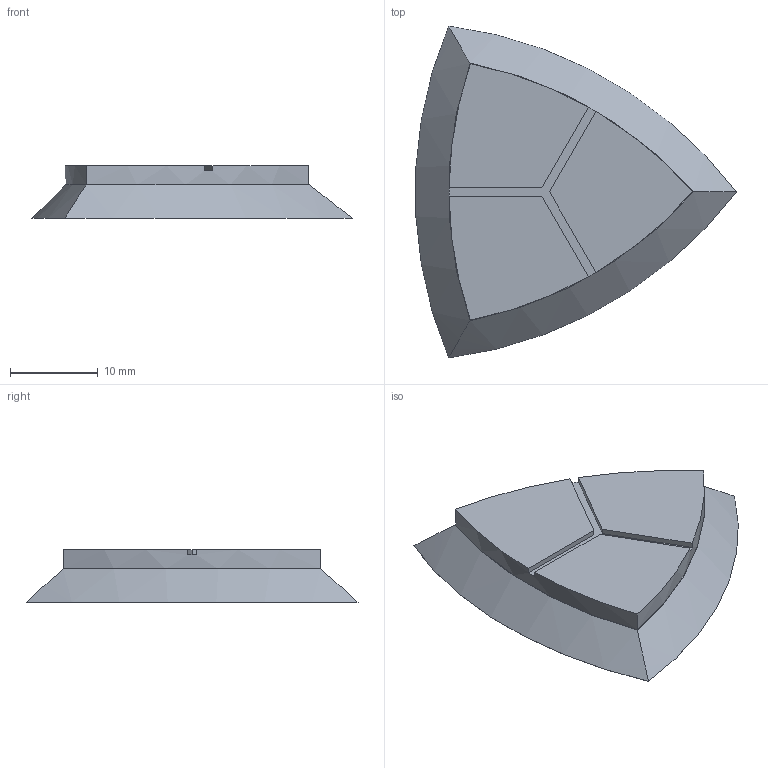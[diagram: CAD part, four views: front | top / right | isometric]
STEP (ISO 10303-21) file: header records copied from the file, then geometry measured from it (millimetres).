
FILE_DESCRIPTION(('FreeCAD Model'),'2;1');
FILE_NAME('Open CASCADE Shape Model','2025-12-23T13:31:31',(''),(''), 'Open CASCADE STEP processor 7.8','FreeCAD','Unknown');
FILE_SCHEMA(('AUTOMOTIVE_DESIGN { 1 0 10303 214 1 1 1 1 }'));
Length unit declared in the file: millimetre
Products named in the file (1): Body
Bounding box: 36.41 x 37.74 x 6 mm (x, y, z)
Volume: 3776.6 mm3; surface area: 2208.3 mm2
Topology: 1 solids, 1 shells, 21 faces, 51 edges, 33 vertices
Faces by surface type: cylinder 6, plane 6, bspline 6, cone 3
Entity records: 656 total; most frequent: CARTESIAN_POINT 151, ORIENTED_EDGE 102, DIRECTION 98, EDGE_CURVE 51, AXIS2_PLACEMENT_3D 40, VERTEX_POINT 33, FACE_BOUND 22, EDGE_LOOP 22
